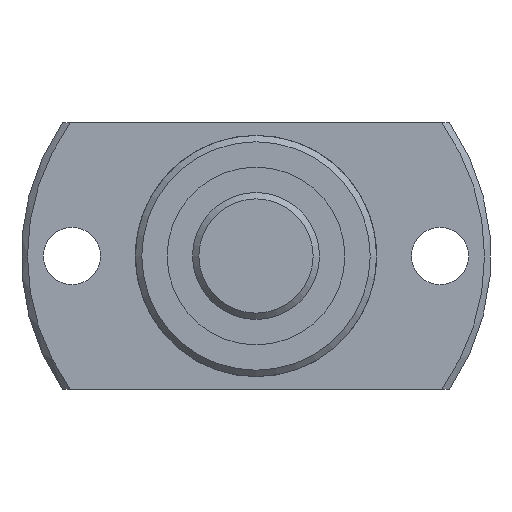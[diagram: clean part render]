
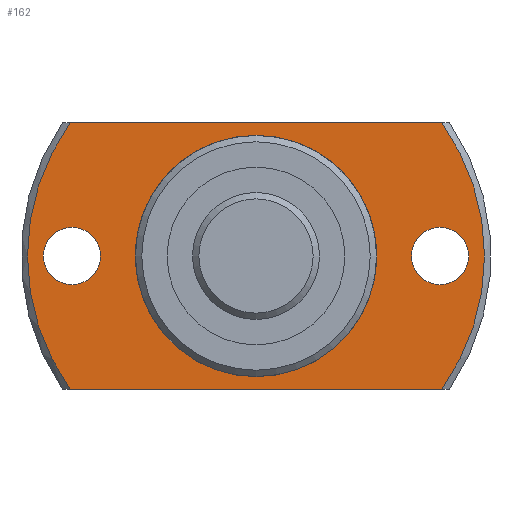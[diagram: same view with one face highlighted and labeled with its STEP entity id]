
A CAD part, left-side view. The second image highlights one B-rep face of the part: STEP entity #162.
In plain terms, the highlighted planar face has unit normal (-1, 0, 0).
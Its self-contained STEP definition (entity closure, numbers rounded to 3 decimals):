
#162 = ADVANCED_FACE( '', ( #361, #362, #363, #364 ), #365, .F. );
#361 = FACE_OUTER_BOUND( '', #631, .T. );
#362 = FACE_BOUND( '', #632, .T. );
#363 = FACE_BOUND( '', #633, .T. );
#364 = FACE_BOUND( '', #634, .T. );
#365 = PLANE( '', #635 );
#631 = EDGE_LOOP( '', ( #949, #950, #951, #952 ) );
#632 = EDGE_LOOP( '', ( #953 ) );
#633 = EDGE_LOOP( '', ( #954 ) );
#634 = EDGE_LOOP( '', ( #955 ) );
#635 = AXIS2_PLACEMENT_3D( '', #956, #957, #958 );
#949 = ORIENTED_EDGE( '', *, *, #1512, .F. );
#950 = ORIENTED_EDGE( '', *, *, #1513, .T. );
#951 = ORIENTED_EDGE( '', *, *, #1514, .F. );
#952 = ORIENTED_EDGE( '', *, *, #1469, .T. );
#953 = ORIENTED_EDGE( '', *, *, #1515, .T. );
#954 = ORIENTED_EDGE( '', *, *, #1516, .T. );
#955 = ORIENTED_EDGE( '', *, *, #1517, .T. );
#956 = CARTESIAN_POINT( '', ( 13., 9.25, 0. ) );
#957 = DIRECTION( '', ( 1., 0., 0. ) );
#958 = DIRECTION( '', ( 0., 0., -1. ) );
#1469 = EDGE_CURVE( '', #1709, #1707, #1710, .T. );
#1512 = EDGE_CURVE( '', #1783, #1707, #1784, .T. );
#1513 = EDGE_CURVE( '', #1783, #1785, #1786, .T. );
#1514 = EDGE_CURVE( '', #1709, #1785, #1787, .T. );
#1515 = EDGE_CURVE( '', #1788, #1788, #1789, .T. );
#1516 = EDGE_CURVE( '', #1790, #1790, #1791, .T. );
#1517 = EDGE_CURVE( '', #1792, #1792, #1793, .T. );
#1707 = VERTEX_POINT( '', #2056 );
#1709 = VERTEX_POINT( '', #2061 );
#1710 = LINE( '', #2062, #2063 );
#1783 = VERTEX_POINT( '', #2181 );
#1784 = CIRCLE( '', #2182, 18. );
#1785 = VERTEX_POINT( '', #2183 );
#1786 = LINE( '', #2184, #2185 );
#1787 = CIRCLE( '', #2186, 18. );
#1788 = VERTEX_POINT( '', #2187 );
#1789 = CIRCLE( '', #2188, 2.25 );
#1790 = VERTEX_POINT( '', #2189 );
#1791 = CIRCLE( '', #2190, 2.25 );
#1792 = VERTEX_POINT( '', #2191 );
#1793 = CIRCLE( '', #2192, 9.25 );
#2056 = CARTESIAN_POINT( '', ( 13., 14.62, 10.5 ) );
#2061 = CARTESIAN_POINT( '', ( 13., -14.62, 10.5 ) );
#2062 = CARTESIAN_POINT( '', ( 13., 9.25, 10.5 ) );
#2063 = VECTOR( '', #2517, 1000. );
#2181 = CARTESIAN_POINT( '', ( 13., 14.62, -10.5 ) );
#2182 = AXIS2_PLACEMENT_3D( '', #2561, #2562, #2563 );
#2183 = CARTESIAN_POINT( '', ( 13., -14.62, -10.5 ) );
#2184 = CARTESIAN_POINT( '', ( 13., 9.25, -10.5 ) );
#2185 = VECTOR( '', #2564, 1000. );
#2186 = AXIS2_PLACEMENT_3D( '', #2565, #2566, #2567 );
#2187 = CARTESIAN_POINT( '', ( 13., 14.5, -2.25 ) );
#2188 = AXIS2_PLACEMENT_3D( '', #2568, #2569, #2570 );
#2189 = CARTESIAN_POINT( '', ( 13., -14.5, -2.25 ) );
#2190 = AXIS2_PLACEMENT_3D( '', #2571, #2572, #2573 );
#2191 = CARTESIAN_POINT( '', ( 13., 0., -9.25 ) );
#2192 = AXIS2_PLACEMENT_3D( '', #2574, #2575, #2576 );
#2517 = DIRECTION( '', ( 0., 1., 0. ) );
#2561 = CARTESIAN_POINT( '', ( 13., 0., 0. ) );
#2562 = DIRECTION( '', ( 1., 0., 0. ) );
#2563 = DIRECTION( '', ( 0., 0., -1. ) );
#2564 = DIRECTION( '', ( 0., -1., 0. ) );
#2565 = CARTESIAN_POINT( '', ( 13., 0., 0. ) );
#2566 = DIRECTION( '', ( 1., 0., 0. ) );
#2567 = DIRECTION( '', ( 0., 0., -1. ) );
#2568 = CARTESIAN_POINT( '', ( 13., 14.5, 0. ) );
#2569 = DIRECTION( '', ( 1., 0., 0. ) );
#2570 = DIRECTION( '', ( 0., 0., -1. ) );
#2571 = CARTESIAN_POINT( '', ( 13., -14.5, 0. ) );
#2572 = DIRECTION( '', ( 1., 0., 0. ) );
#2573 = DIRECTION( '', ( 0., 0., -1. ) );
#2574 = CARTESIAN_POINT( '', ( 13., 0., 0. ) );
#2575 = DIRECTION( '', ( 1., 0., 0. ) );
#2576 = DIRECTION( '', ( 0., 0., -1. ) );
